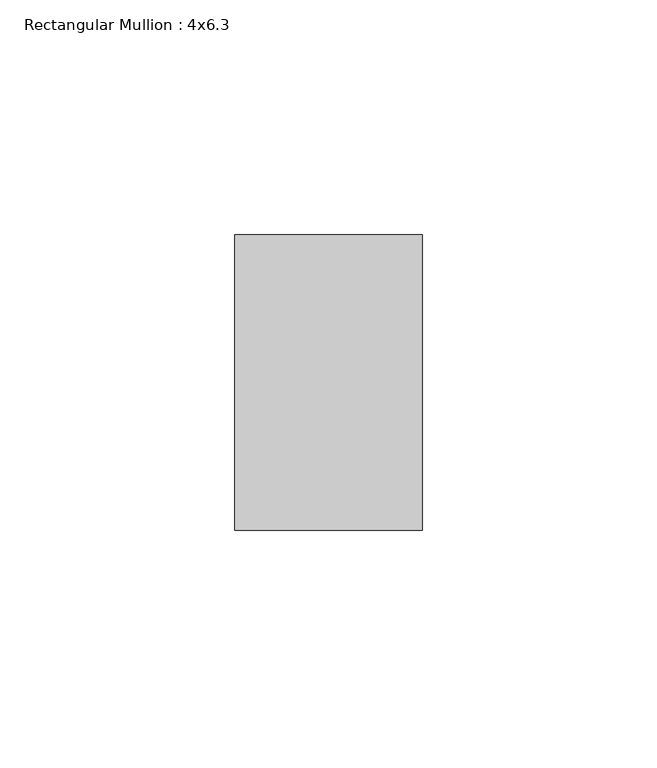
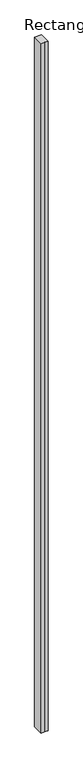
"""IFC4 building model written with IfcOpenShell, lengths in millimetres: member geometry, Rectangular Mullion : 4x6.3."""

from ifc_helpers import new_model, si_unit, frame, origin, place, context, project, spatial, polyline, outline, extrude, source, transform, mapped, element, save


def rectangular_mullion_4x6_3_e6fa2b53(model_context):
    return source(origin(), model_context, "Body", "SweptSolid", [
        extrude(outline(polyline([(-20.0, 20.0), (-20.0, 83.0), (20.0, 83.0), (20.0, 20.0), (0.0, 20.0), (-20.0, 20.0)])), frame((0.0, 0.0, -4144.5732716), z_axis=(0.0, 0.0, 1.0), x_axis=(1.0, 0.0, 0.0)), (0.0, 0.0, 1.0), 4144.5732716),
    ])


if __name__ == "__main__":
    model = new_model("IFC4")
    model_context = context("Model", 3, world=origin())
    ifc_project = project(units=[si_unit("LENGTHUNIT", "METRE", prefix="MILLI")], contexts=[model_context])
    site = spatial("IfcSite", under=ifc_project)
    building = spatial("IfcBuilding", under=site)
    placement = place(None, origin())
    rectangular_mullion_4x6_3_shape = rectangular_mullion_4x6_3_e6fa2b53(model_context)
    element("IfcMember", 1, ObjectType="Rectangular Mullion : 4x6.3", at=placement, inside=building, context=model_context, shape_type="MappedRepresentation", body=[
        mapped(rectangular_mullion_4x6_3_shape, transform((0.0, 0.0, 0.0), x_axis=(1.0, 0.0, 0.0), y_axis=(0.0, 1.0, 0.0), z_axis=(0.0, 0.0, 1.0))),
    ])
    save(model, "model.ifc")
